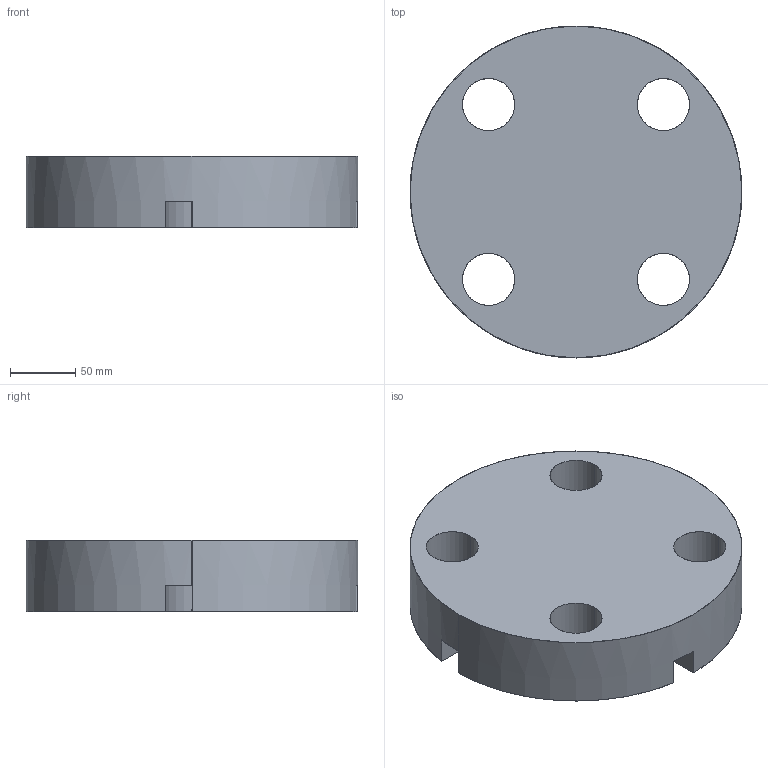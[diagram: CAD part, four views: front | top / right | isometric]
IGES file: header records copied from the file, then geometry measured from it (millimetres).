
Start section: SolidWorks IGES file using analytic representation for surfaces
Global section: file name: C:\Documents and Settings\PHILIPPE\Mes documents\DAO-FAO\esprit\Machines\Tour euroturn gris 2\Fichiers-sw2006\Tourelle-euroturn-gris-2.IGS; native system: SolidWorks 2006 by SolidWorks Corporation; preprocessor: SolidWorks 2006 by SolidWorks Corporation; author: PHILIPPE; date: 070519.123004; units: millimetre
Bounding box: 255 x 255 x 55 mm (x, y, z)
Surface area: 183432 mm2 (no closed solid volume)
Topology: 0 solids, 0 shells, 31 faces, 710 edges, 710 vertices
Faces by surface type: revolution 16, bspline 15
